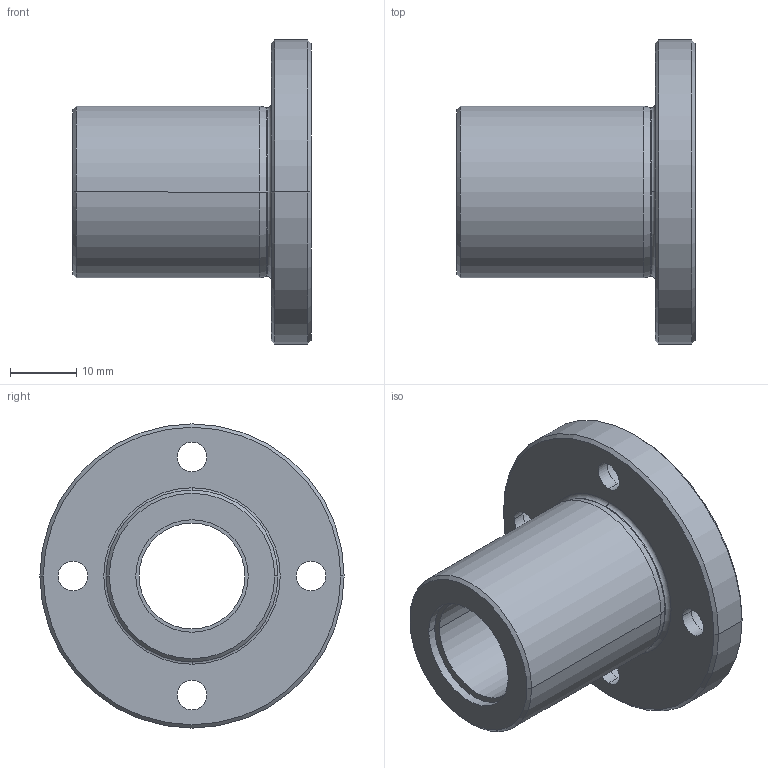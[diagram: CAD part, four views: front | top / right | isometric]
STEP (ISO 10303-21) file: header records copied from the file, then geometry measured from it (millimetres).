
FILE_DESCRIPTION (( 'STEP AP214' ), '1' );
FILE_NAME ('2.7060 Lineaarilaakeri LMEF16UU.STEP', '2024-06-17T11:11:30', ( '' ), ( '' ), 'SwSTEP 2.0', 'SolidWorks 2024', '' );
FILE_SCHEMA (( 'AUTOMOTIVE_DESIGN' ));
Length unit declared in the file: millimetre
Products named in the file (1): 2.7060 Lineaarilaakeri LMEF16UU
Bounding box: 36 x 46 x 46 mm (x, y, z)
Volume: 17643.8 mm3; surface area: 8550.1 mm2
Topology: 1 solids, 1 shells, 53 faces, 116 edges, 74 vertices
Faces by surface type: cylinder 30, plane 11, cone 8, torus 4
Entity records: 1531 total; most frequent: DIRECTION 302, CARTESIAN_POINT 244, ORIENTED_EDGE 232, AXIS2_PLACEMENT_3D 132, EDGE_CURVE 116, CIRCLE 78, VERTEX_POINT 74, EDGE_LOOP 72
